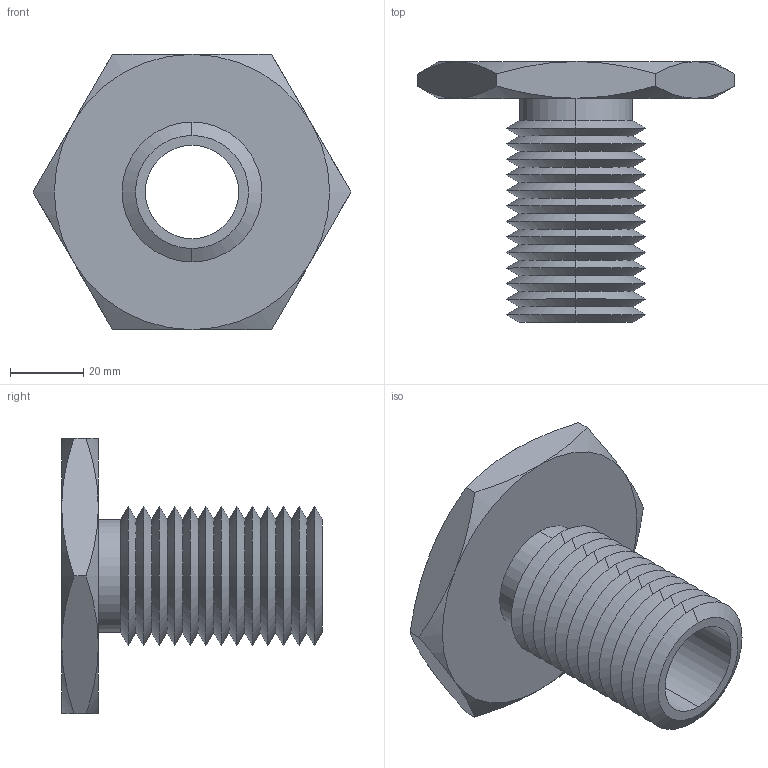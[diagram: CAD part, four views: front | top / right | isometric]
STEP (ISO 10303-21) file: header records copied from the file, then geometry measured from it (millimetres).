
FILE_DESCRIPTION (( 'STEP AP203' ), '1' );
FILE_NAME ('63302.W5150_1,00 UNC-8.step', '2013-12-08T11:47:27', ( 'User' ), ( '' ), 'SwSTEP 2.0', 'SolidWorks 2009', '' );
FILE_SCHEMA (( 'CONFIG_CONTROL_DESIGN' ));
Length unit declared in the file: millimetre
Products named in the file (1): 63302.W5150_1,00 UNC-8
Bounding box: 86.6 x 71 x 75 mm (x, y, z)
Volume: 67266.2 mm3; surface area: 28880.4 mm2
Topology: 1 solids, 1 shells, 79 faces, 162 edges, 86 vertices
Faces by surface type: cone 66, plane 9, cylinder 4
Entity records: 2239 total; most frequent: CARTESIAN_POINT 512, DIRECTION 372, ORIENTED_EDGE 324, EDGE_CURVE 162, AXIS2_PLACEMENT_3D 154, VERTEX_POINT 86, EDGE_LOOP 82, ADVANCED_FACE 79
